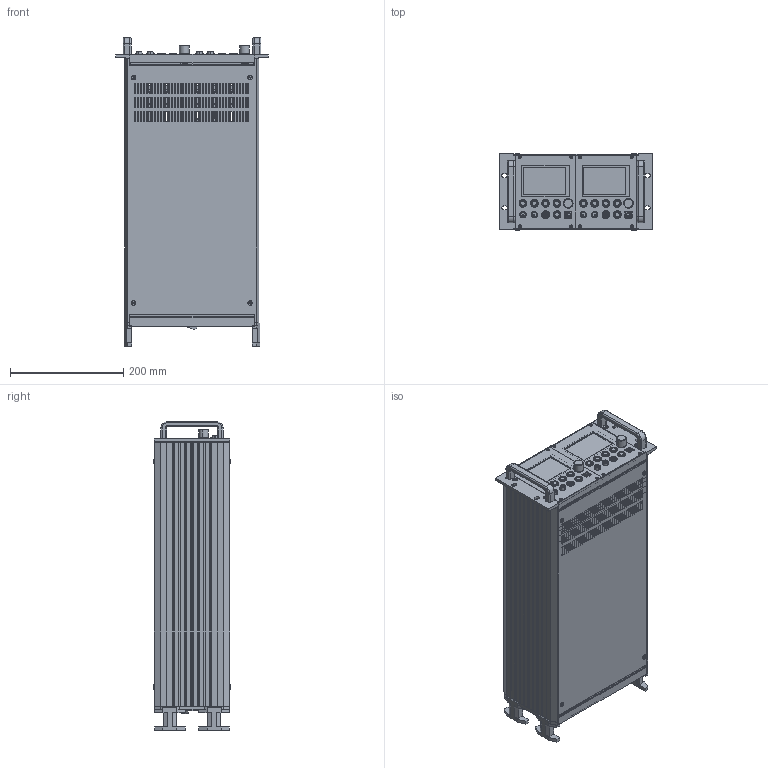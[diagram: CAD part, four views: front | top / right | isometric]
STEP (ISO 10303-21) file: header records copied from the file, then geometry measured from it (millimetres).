
FILE_DESCRIPTION (( 'STEP AP203' ), '1' );
FILE_NAME ('A02D02V050F03M.STEP', '2025-07-11T02:33:22', ( 'China' ), ( 'Home' ), 'SwSTEP 2.0', 'SolidWorks 2016', '' );
FILE_SCHEMA (( 'CONFIG_CONTROL_DESIGN' ));
Products named in the file (1): A02D02V050F03M
Bounding box: 269.8 x 136.7 x 546.2 mm (x, y, z)
Surface area: 1062054.2 mm2 (no closed solid volume)
Topology: 0 solids, 236 shells, 2360 faces, 9396 edges, 7218 vertices
Faces by surface type: plane 1336, cylinder 910, cone 68, torus 24, sphere 22
Entity records: 100600 total; most frequent: CARTESIAN_POINT 19875, DIRECTION 17480, ORIENTED_EDGE 13840, EDGE_CURVE 9396, VERTEX_POINT 7218, AXIS2_PLACEMENT_3D 5847, LINE 5786, VECTOR 5786
